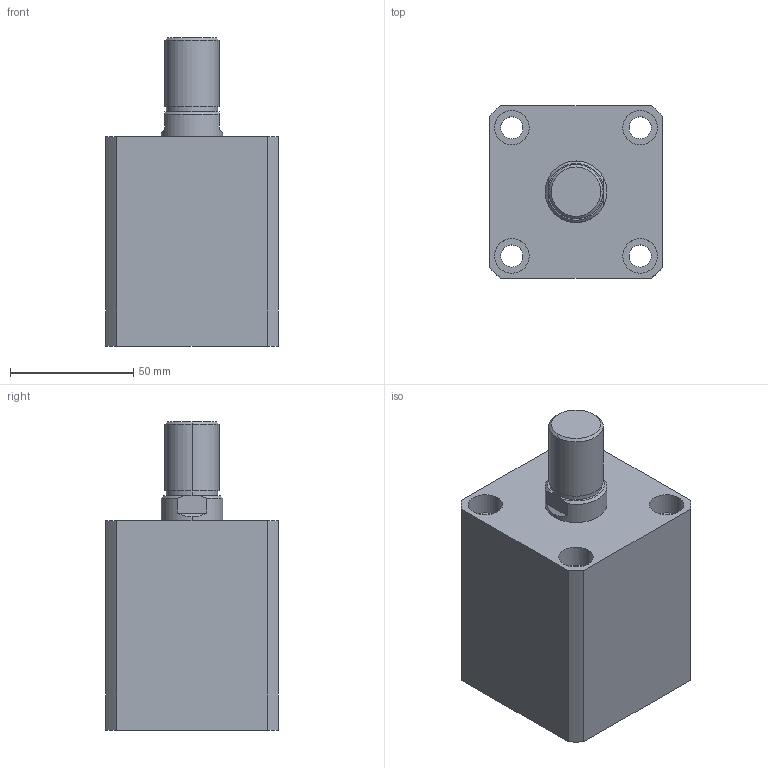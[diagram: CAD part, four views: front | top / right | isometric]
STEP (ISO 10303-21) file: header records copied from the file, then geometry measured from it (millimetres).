
FILE_DESCRIPTION (( 'STEP AP203' ), '1' );
FILE_NAME ('HTB-SDMB40-30W.STEP', '2019-10-09T01:50:49', ( '微软用户' ), ( '微软中国' ), 'SwSTEP 2.0', 'SolidWorks 2012', '' );
FILE_SCHEMA (( 'CONFIG_CONTROL_DESIGN' ));
Length unit declared in the file: millimetre
Products named in the file (3): HTB-SDMB40-30W; HTB-SDMB40-30W活塞杆; HTB-SDMB40-30掛极
Assembly tree (2 placements, depth 2):
  HTB-SDMB40-30W
    HTB-SDMB40-30掛极
    HTB-SDMB40-30W活塞杆
Bounding box: 70 x 70 x 125 mm (x, y, z)
Volume: 377591.1 mm3; surface area: 65073.7 mm2
Topology: 2 solids, 2 shells, 141 faces, 337 edges, 222 vertices
Faces by surface type: plane 67, cylinder 48, bspline 16, torus 6, cone 4
Entity records: 5180 total; most frequent: CARTESIAN_POINT 1597, ORIENTED_EDGE 674, DIRECTION 669, EDGE_CURVE 337, AXIS2_PLACEMENT_3D 242, VERTEX_POINT 222, VECTOR 185, LINE 185
